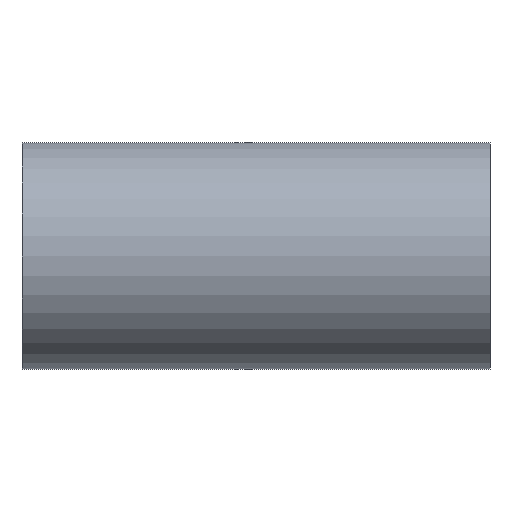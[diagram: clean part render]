
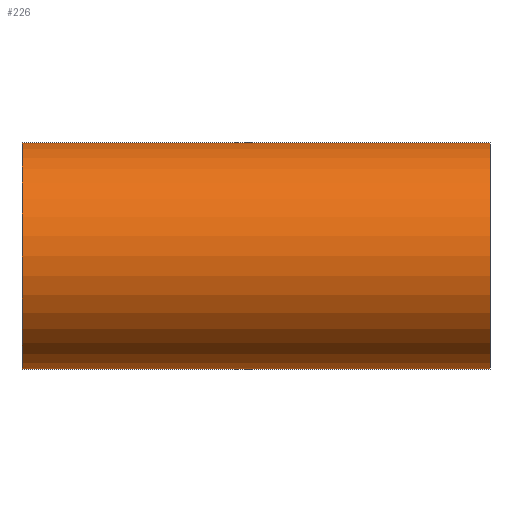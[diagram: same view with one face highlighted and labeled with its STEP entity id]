
A CAD part, front view. The second image highlights one B-rep face of the part: STEP entity #226.
In plain terms, the highlighted cylindrical face has radius 25.4 mm (diameter 50.8 mm), a partial arc.
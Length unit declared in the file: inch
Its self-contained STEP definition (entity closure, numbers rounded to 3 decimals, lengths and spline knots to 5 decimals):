
#5 = ORIENTED_EDGE ( 'NONE', *, *, #601, .F. ) ;
#6 = ORIENTED_EDGE ( 'NONE', *, *, #190, .T. ) ;
#32 = VECTOR ( 'NONE', #439, 39.37008 ) ;
#41 = DIRECTION ( 'NONE',  ( 0., 0., -1. ) ) ;
#72 = FACE_OUTER_BOUND ( 'NONE', #267, .T. ) ;
#90 = DIRECTION ( 'NONE',  ( 1., 0., 0. ) ) ;
#92 = CARTESIAN_POINT ( 'NONE',  ( 2.0625, 0., 0. ) ) ;
#147 = CARTESIAN_POINT ( 'NONE',  ( 2.0625, 0., 0. ) ) ;
#167 = LINE ( 'NONE', #308, #32 ) ;
#190 = EDGE_CURVE ( 'NONE', #484, #550, #205, .T. ) ;
#191 = DIRECTION ( 'NONE',  ( 0., 0., -1. ) ) ;
#192 = DIRECTION ( 'NONE',  ( 1., 0., 0. ) ) ;
#193 = EDGE_CURVE ( 'NONE', #471, #582, #449, .T. ) ;
#205 = CIRCLE ( 'NONE', #555, 1. ) ;
#207 = CARTESIAN_POINT ( 'NONE',  ( 2.0625, 0., -1. ) ) ;
#226 = ADVANCED_FACE ( 'NONE', ( #72 ), #303, .T. ) ;
#238 = CARTESIAN_POINT ( 'NONE',  ( -2.0625, 0., 0. ) ) ;
#261 = VECTOR ( 'NONE', #528, 39.37008 ) ;
#267 = EDGE_LOOP ( 'NONE', ( #5, #608, #575, #6 ) ) ;
#303 = CYLINDRICAL_SURFACE ( 'NONE', #440, 1. ) ;
#308 = CARTESIAN_POINT ( 'NONE',  ( 2.0625, 0., 1. ) ) ;
#311 = CARTESIAN_POINT ( 'NONE',  ( 2.0625, 0., 1. ) ) ;
#356 = CARTESIAN_POINT ( 'NONE',  ( -2.0625, 0., 1. ) ) ;
#439 = DIRECTION ( 'NONE',  ( -1., 0., 0. ) ) ;
#440 = AXIS2_PLACEMENT_3D ( 'NONE', #147, #514, #467 ) ;
#449 = CIRCLE ( 'NONE', #473, 1. ) ;
#467 = DIRECTION ( 'NONE',  ( 0., 0., 1. ) ) ;
#471 = VERTEX_POINT ( 'NONE', #311 ) ;
#473 = AXIS2_PLACEMENT_3D ( 'NONE', #92, #90, #41 ) ;
#484 = VERTEX_POINT ( 'NONE', #356 ) ;
#514 = DIRECTION ( 'NONE',  ( -1., 0., 0. ) ) ;
#520 = LINE ( 'NONE', #207, #261 ) ;
#528 = DIRECTION ( 'NONE',  ( -1., 0., 0. ) ) ;
#539 = CARTESIAN_POINT ( 'NONE',  ( -2.0625, 0., -1. ) ) ;
#550 = VERTEX_POINT ( 'NONE', #539 ) ;
#555 = AXIS2_PLACEMENT_3D ( 'NONE', #238, #192, #191 ) ;
#575 = ORIENTED_EDGE ( 'NONE', *, *, #615, .T. ) ;
#582 = VERTEX_POINT ( 'NONE', #607 ) ;
#601 = EDGE_CURVE ( 'NONE', #582, #550, #520, .T. ) ;
#607 = CARTESIAN_POINT ( 'NONE',  ( 2.0625, 0., -1. ) ) ;
#608 = ORIENTED_EDGE ( 'NONE', *, *, #193, .F. ) ;
#615 = EDGE_CURVE ( 'NONE', #471, #484, #167, .T. ) ;
